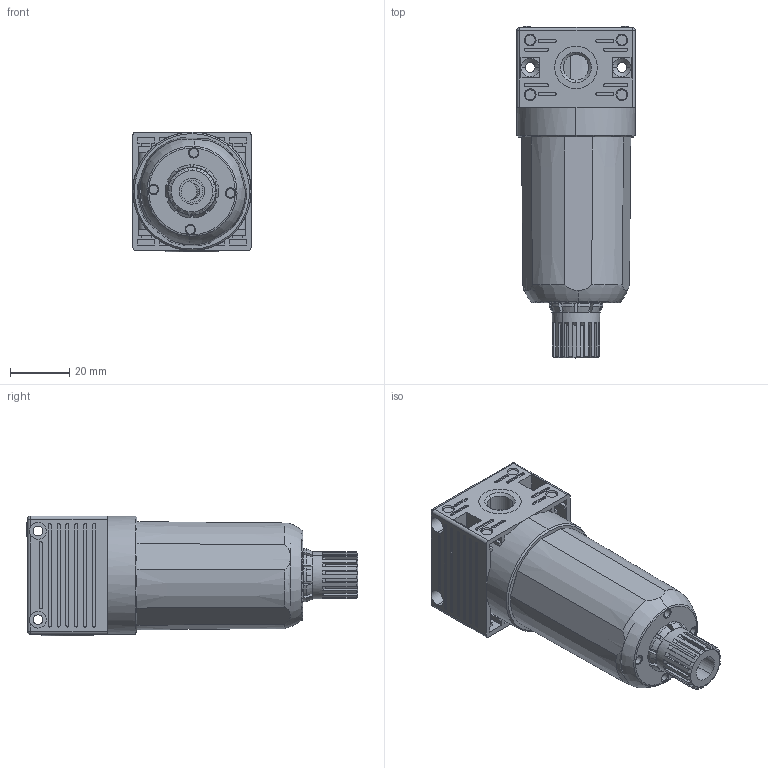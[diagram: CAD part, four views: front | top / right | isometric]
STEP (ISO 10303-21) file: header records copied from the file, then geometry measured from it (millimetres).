
FILE_DESCRIPTION (( 'STEP AP214' ), '1' );
FILE_NAME ('T010002201000A.step', '2012-10-18T17:30:09', ( '' ), ( '' ), 'SwSTEP 2.0', 'SolidWorks 2012', '' );
FILE_SCHEMA (( 'AUTOMOTIVE_DESIGN' ));
Length unit declared in the file: millimetre
Products named in the file (1): T010002201000A
Bounding box: 40 x 112.2 x 40.5 mm (x, y, z)
Surface area: 59674 mm2 (no closed solid volume)
Topology: 0 solids, 11 shells, 1489 faces, 4020 edges, 2611 vertices
Faces by surface type: plane 791, cylinder 514, cone 131, torus 38, bspline 11, sphere 4
Entity records: 66259 total; most frequent: CARTESIAN_POINT 12364, ORIENTED_EDGE 8032, DIRECTION 7732, EDGE_CURVE 4016, AXIS2_PLACEMENT_3D 2711, VERTEX_POINT 2611, LINE 2310, VECTOR 2310
